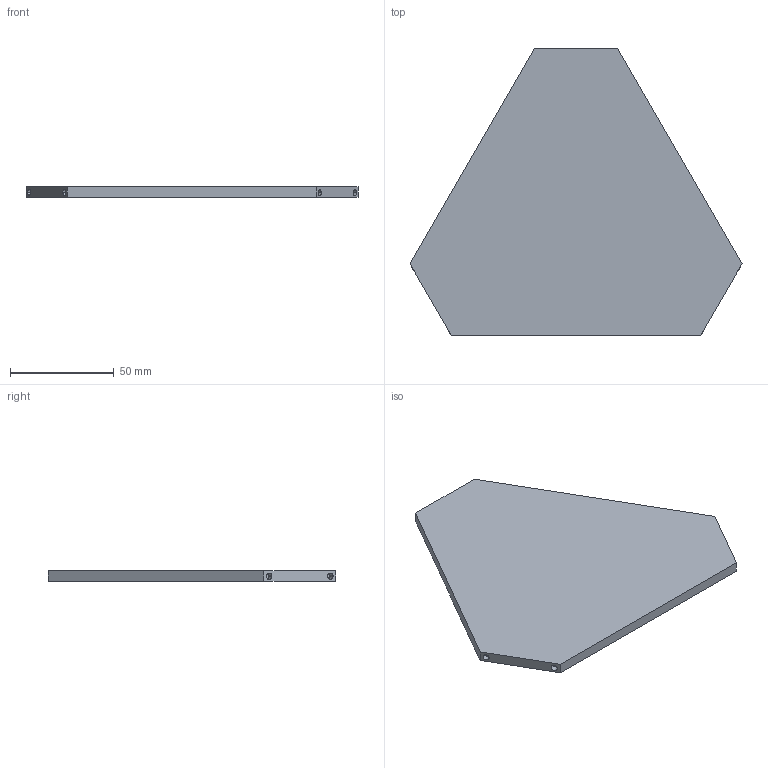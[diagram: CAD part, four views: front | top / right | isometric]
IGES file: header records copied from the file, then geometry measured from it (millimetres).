
Start section: SolidWorks IGES file using analytic representation for surfaces
Global section: file name: C:\Users\gorka\OneDrive\Desktop\SP STL\top_iges.IGS; native system: SolidWorks 2021; preprocessor: SolidWorks 2021; author: gorka; date: 220628.194321; units: millimetre
Bounding box: 160 x 138.56 x 5 mm (x, y, z)
Surface area: 33053.7 mm2 (no closed solid volume)
Topology: 0 solids, 0 shells, 26 faces, 468 edges, 468 vertices
Faces by surface type: bspline 14, revolution 12
